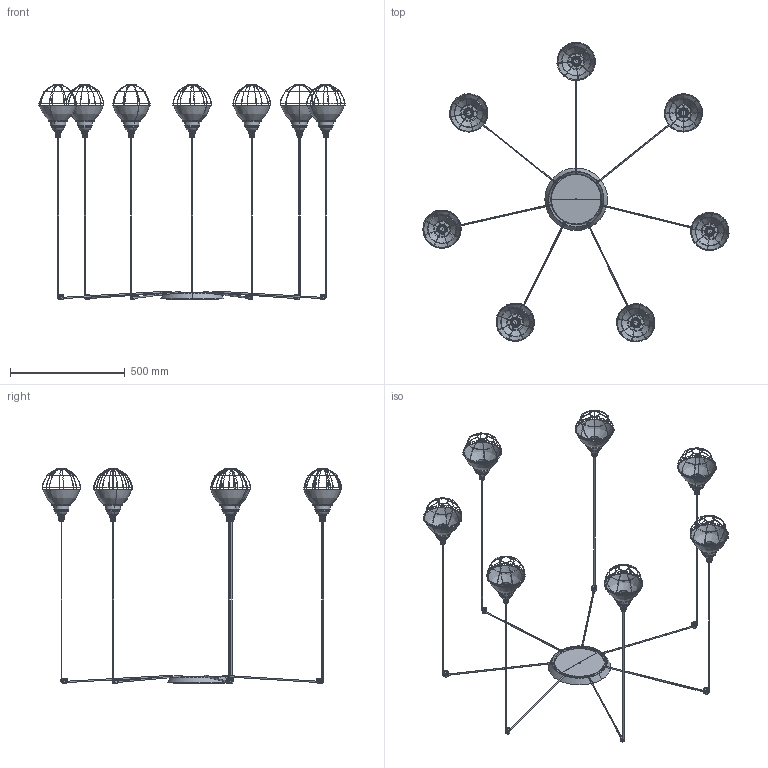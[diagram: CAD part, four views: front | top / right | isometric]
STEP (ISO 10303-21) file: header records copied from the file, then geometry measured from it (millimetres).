
FILE_DESCRIPTION(/* description */ (''),/* implementation_level */ '2;1');
FILE_NAME(/* name */ 'C:\Users\FrancoSartori\Documents\FARO\01_En Proceso\000_SOLICITUD INFO SIN PROCESAR\0_CLAIRE\03_Publicación\62802-7L.stp',/* time_stamp */ '2021-05-18T13:15:00+02:00',/* author */ ('FrancoSartori'),/* organization */ (''),/* preprocessor_version */ 'ST-DEVELOPER v18.1',/* originating_system */ 'AutoCAD Mechanical',/* authorisation */ '');
FILE_SCHEMA (('AUTOMOTIVE_DESIGN { 1 0 10303 214 3 1 1 }'));
Products named in the file (2): Product; CLAIRE_CAN7 - 68603-435617-_3D_
Assembly tree (1 placements, depth 2):
  Product
    CLAIRE_CAN7 - 68603-435617-_3D_
Bounding box: 1336.08 x 1308.52 x 934.98 mm (x, y, z)
Volume: 1784868.4 mm3; surface area: 1788878.1 mm2
Topology: 100 solids, 170 shells, 1724 faces, 3849 edges, 2214 vertices
Faces by surface type: cylinder 625, plane 511, torus 410, cone 94, bspline 84
Entity records: 119911 total; most frequent: CARTESIAN_POINT 84090, ORIENTED_EDGE 7355, DIRECTION 6965, EDGE_CURVE 3835, AXIS2_PLACEMENT_3D 2848, VERTEX_POINT 2214, EDGE_LOOP 1802, FACE_OUTER_BOUND 1724
